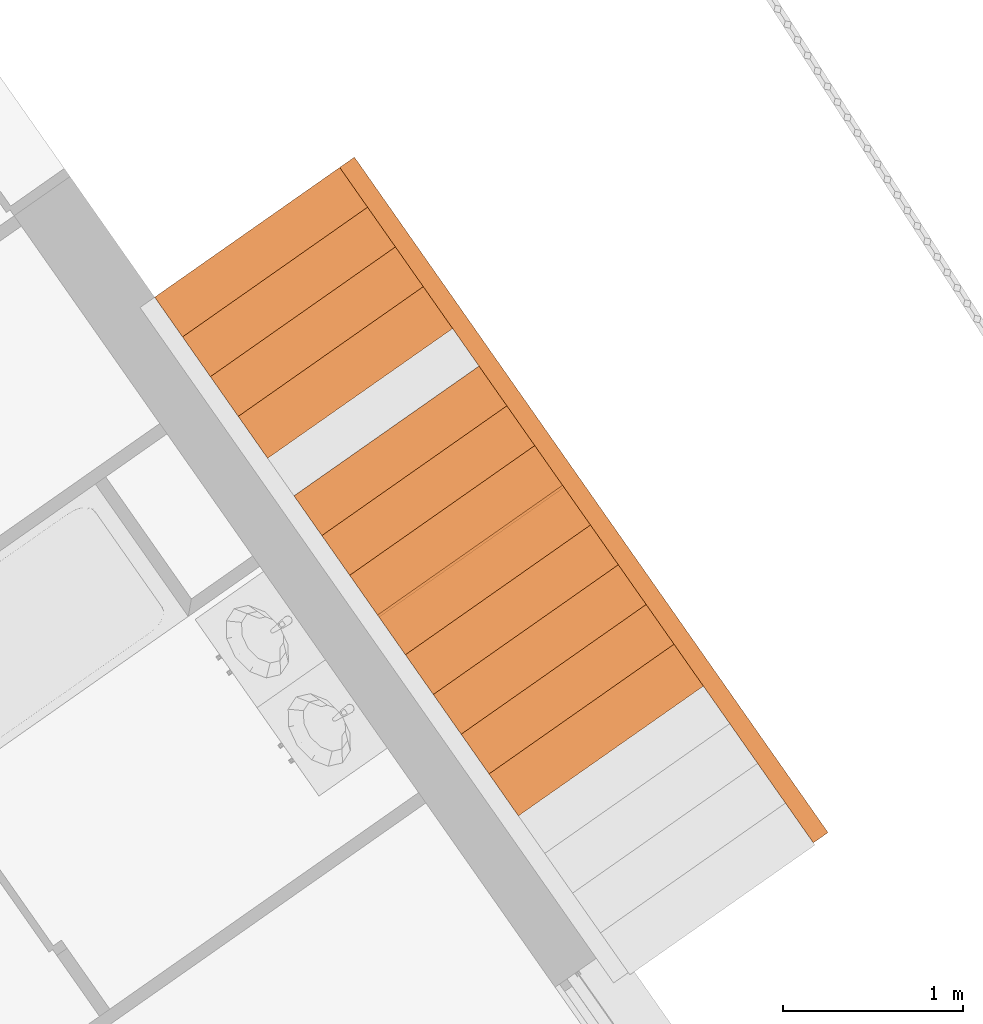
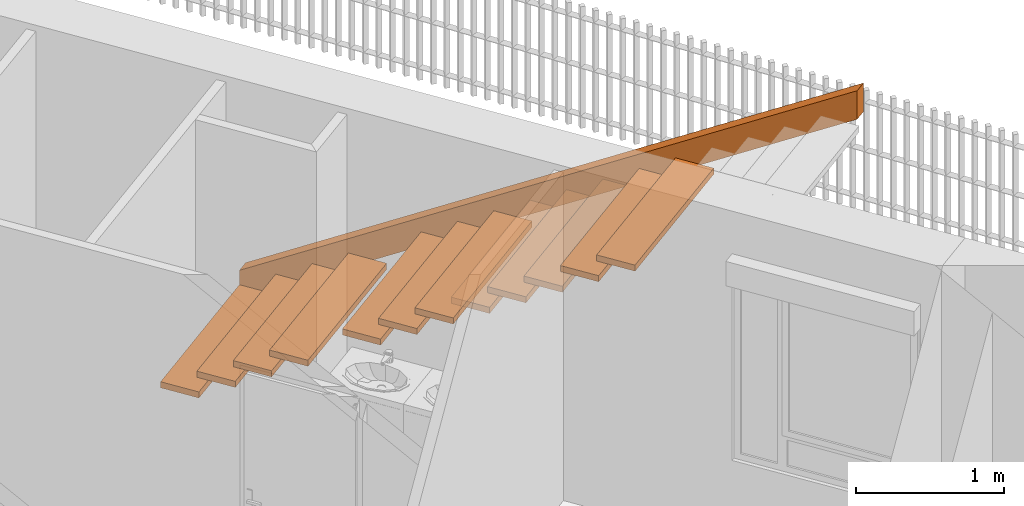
# One storey, part 186 of 195: 23 proxies, 2 elements without a shape of their own.
"""IFC2X3 building model written with IfcOpenShell, lengths in metres."""

from ifc_helpers import new_model, entity, si_unit, converted_unit, derived_unit, money_unit, direction, frame, origin_with_axes, place, context, subcontext, project, spatial, faceted_brep, material, type_object, element, aggregate, save


model = new_model("IFC2X3")

# Units and contexts
model_context = context("Model", 3, precision=1e-05, world=origin_with_axes(), true_north=direction((0.0, 1.0)))
body_context = subcontext(model_context, "Body", "Model", "MODEL_VIEW")
ifc_project = project(units=[si_unit("LENGTHUNIT", "METRE"), si_unit("AREAUNIT", "SQUARE_METRE"), si_unit("VOLUMEUNIT", "CUBIC_METRE"), converted_unit("PLANEANGLEUNIT", "DEGREE", entity("IfcPlaneAngleMeasure", 0.0174532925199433), si_unit("PLANEANGLEUNIT", "RADIAN"), dimensions=[0, 0, 0, 0, 0, 0, 0]), money_unit("CHF"), converted_unit("TIMEUNIT", "Year", entity("IfcTimeMeasure", 31557600.0), si_unit("TIMEUNIT", "SECOND"), dimensions=[0, 0, 1, 0, 0, 0, 0]), si_unit("MASSUNIT", "GRAM", prefix="KILO"), si_unit("THERMODYNAMICTEMPERATUREUNIT", "DEGREE_CELSIUS"), si_unit("LUMINOUSINTENSITYUNIT", "LUMEN"), si_unit("ENERGYUNIT", "JOULE", prefix="MEGA"), derived_unit("THERMALCONDUCTANCEUNIT", [(si_unit("POWERUNIT", "WATT"), 1), (si_unit("LENGTHUNIT", "METRE"), -1), (si_unit("THERMODYNAMICTEMPERATUREUNIT", "KELVIN"), -1)]), derived_unit("SPECIFICHEATCAPACITYUNIT", [(si_unit("ENERGYUNIT", "JOULE"), 1), (si_unit("MASSUNIT", "GRAM", prefix="KILO"), -1), (si_unit("THERMODYNAMICTEMPERATUREUNIT", "KELVIN"), -1)]), derived_unit("MASSDENSITYUNIT", [(si_unit("MASSUNIT", "GRAM", prefix="KILO"), 1), (si_unit("VOLUMEUNIT", "CUBIC_METRE"), -1)])], contexts=[model_context])

# Site, building, storey
site_placement = place(None, origin_with_axes())
site = spatial("IfcSite", under=ifc_project, at=site_placement, Name="Site", CompositionType="ELEMENT")
building_placement = place(site_placement, origin_with_axes())
building = spatial("IfcBuilding", under=site, at=building_placement, Name="Bâtiment", CompositionType="ELEMENT")
storey_placement = place(building_placement, origin_with_axes())
storey = spatial("IfcBuildingStorey", under=building, at=storey_placement, Name="rdc", CompositionType="ELEMENT", Elevation=0.0)

# Stair, proxies
stair_1_placement = place(storey_placement, frame((9553.64061674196, -1056.719987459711, 57.33248236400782), z_axis=(0.0, 0.0, 1.0), x_axis=(-0.7691003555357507, 0.6391280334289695, 0.0)))
stair_1 = element("IfcStair", 1, at=stair_1_placement, inside=storey, Name="ESC-028", ShapeType="NOTDEFINED")
ifc_material_1 = material(Name="Isolant styromousse 288701002")
building_element_proxy_type = type_object("IfcBuildingElementProxyType", Name="IfcBuildingElementProxy", PredefinedType="NOTDEFINED")
proxy_1_placement = place(stair_1_placement, origin_with_axes())
proxy_1 = element("IfcBuildingElementProxy", 2, at=proxy_1_placement, type_object=building_element_proxy_type, material=ifc_material_1, Name="SS - 039", context=body_context, shape_type="Brep", body=[
    faceted_brep([(-4.785391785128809, -0.1038036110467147, 2.882482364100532), (-0.3566463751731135, -1.309753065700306, 0.04914903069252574), (-0.3566463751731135, -1.309753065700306, 0.2841843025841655), (-4.785391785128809, -0.1038036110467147, 3.117517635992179), (-4.75911837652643, -0.007316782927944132, 2.882482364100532), (-0.3303729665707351, -1.213266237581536, 0.04914903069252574), (-0.3303729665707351, -1.213266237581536, 0.2841843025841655), (-4.75911837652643, -0.007316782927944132, 3.117517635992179)], [[[0, 1, 2, 3]], [[4, 5, 1, 0]], [[2, 1, 5, 6]], [[3, 2, 6, 7]], [[7, 4, 0, 3]], [[7, 6, 5, 4]]]),
])
ifc_material_2 = material(Name="Lame d'air 275581351")
proxy_2_placement = place(stair_1_placement, frame((-0.1274260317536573, -0.4679611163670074, 0.1666666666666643), z_axis=(0.0, 0.0, 1.0), x_axis=(-0.2627340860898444, -0.9648682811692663, 0.0)))
proxy_2 = element("IfcBuildingElementProxy", 3, at=proxy_2_placement, type_object=building_element_proxy_type, material=ifc_material_2, Name="MARCHE-537", context=body_context, shape_type="Brep", body=[
    faceted_brep([(-0.4850000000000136, 0.0, -0.04999999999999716), (-0.4850000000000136, 0.0, 0.0), (0.7724423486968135, -2.853539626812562e-10, 0.0), (0.7724423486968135, -2.853539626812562e-10, -0.04999999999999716), (-0.4849999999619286, -0.2849999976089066, -0.04999999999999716), (-0.4849999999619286, -0.2849999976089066, 0.0), (0.7724423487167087, -0.2849999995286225, 0.0), (0.7724423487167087, -0.2849999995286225, -0.04999999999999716)], [[[0, 1, 2, 3]], [[4, 5, 1, 0]], [[1, 5, 6, 2]], [[3, 2, 6, 7]], [[0, 3, 7, 4]], [[7, 6, 5, 4]]]),
])
proxy_3_placement = place(stair_1_placement, frame((-0.3879404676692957, -0.3970229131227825, 0.3333333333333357), z_axis=(0.0, 0.0, 1.0), x_axis=(-0.2627340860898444, -0.9648682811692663, 0.0)))
proxy_3 = element("IfcBuildingElementProxy", 4, at=proxy_3_placement, type_object=building_element_proxy_type, material=ifc_material_2, Name="MARCHE-538", context=body_context, shape_type="Brep", body=[
    faceted_brep([(-0.4850000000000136, 0.0, -0.04999999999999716), (-0.4850000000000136, 0.0, 0.0), (0.7724423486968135, -2.853539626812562e-10, 0.0), (0.7724423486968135, -2.853539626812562e-10, -0.04999999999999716), (-0.4849999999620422, -0.2849999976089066, -0.04999999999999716), (-0.4849999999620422, -0.2849999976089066, 0.0), (0.7724423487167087, -0.2849999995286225, 0.0), (0.7724423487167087, -0.2849999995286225, -0.04999999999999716)], [[[0, 1, 2, 3]], [[4, 5, 1, 0]], [[1, 5, 6, 2]], [[3, 2, 6, 7]], [[0, 3, 7, 4]], [[7, 6, 5, 4]]]),
])
proxy_4_placement = place(stair_1_placement, frame((-0.6484549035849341, -0.3260847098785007, 0.5), z_axis=(0.0, 0.0, 1.0), x_axis=(-0.2627340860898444, -0.9648682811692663, 0.0)))
proxy_4 = element("IfcBuildingElementProxy", 5, at=proxy_4_placement, type_object=building_element_proxy_type, material=ifc_material_2, Name="MARCHE-539", context=body_context, shape_type="Brep", body=[
    faceted_brep([(-0.4850000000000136, 0.0, -0.04999999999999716), (-0.4850000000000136, 0.0, 0.0), (0.7724423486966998, -2.853539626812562e-10, 0.0), (0.7724423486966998, -2.853539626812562e-10, -0.04999999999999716), (-0.4849999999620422, -0.2849999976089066, -0.04999999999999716), (-0.4849999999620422, -0.2849999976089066, 0.0), (0.7724423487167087, -0.2849999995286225, 0.0), (0.7724423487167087, -0.2849999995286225, -0.04999999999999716)], [[[0, 1, 2, 3]], [[4, 5, 1, 0]], [[1, 5, 6, 2]], [[3, 2, 6, 7]], [[0, 3, 7, 4]], [[7, 6, 5, 4]]]),
])
proxy_5_placement = place(stair_1_placement, frame((-0.9089693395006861, -0.2551465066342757, 0.6666666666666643), z_axis=(0.0, 0.0, 1.0), x_axis=(-0.2627340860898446, -0.9648682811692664, 0.0)))
proxy_5 = element("IfcBuildingElementProxy", 6, at=proxy_5_placement, type_object=building_element_proxy_type, material=ifc_material_2, Name="MARCHE-540", context=body_context, shape_type="Brep", body=[
    faceted_brep([(-0.4849999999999, 0.0, -0.04999999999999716), (-0.4849999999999, 0.0, 0.0), (0.7724423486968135, -2.853539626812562e-10, 0.0), (0.7724423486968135, -2.853539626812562e-10, -0.04999999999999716), (-0.4849999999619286, -0.2849999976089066, -0.04999999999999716), (-0.4849999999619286, -0.2849999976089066, 0.0), (0.7724423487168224, -0.2849999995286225, 0.0), (0.7724423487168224, -0.2849999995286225, -0.04999999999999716)], [[[0, 1, 2, 3]], [[4, 5, 1, 0]], [[1, 5, 6, 2]], [[3, 2, 6, 7]], [[0, 3, 7, 4]], [[7, 6, 5, 4]]]),
])
proxy_6_placement = place(stair_1_placement, frame((-1.42999821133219, -0.113270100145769, 1.0), z_axis=(0.0, 0.0, 1.0), x_axis=(-0.2627340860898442, -0.9648682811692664, 0.0)))
proxy_6 = element("IfcBuildingElementProxy", 7, at=proxy_6_placement, type_object=building_element_proxy_type, material=ifc_material_2, Name="MARCHE-542", context=body_context, shape_type="Brep", body=[
    faceted_brep([(-0.4850000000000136, 0.0, -0.04999999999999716), (-0.4850000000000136, 0.0, 0.0), (0.7724423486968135, -2.853539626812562e-10, 0.0), (0.7724423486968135, -2.853539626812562e-10, -0.04999999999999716), (-0.4849999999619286, -0.2849999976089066, -0.04999999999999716), (-0.4849999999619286, -0.2849999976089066, 0.0), (0.7724423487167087, -0.2849999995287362, 0.0), (0.7724423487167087, -0.2849999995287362, -0.04999999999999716)], [[[0, 1, 2, 3]], [[4, 5, 1, 0]], [[1, 5, 6, 2]], [[3, 2, 6, 7]], [[0, 3, 7, 4]], [[7, 6, 5, 4]]]),
])
proxy_7_placement = place(stair_1_placement, frame((-1.690512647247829, -0.04233189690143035, 1.166666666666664), z_axis=(0.0, 0.0, 1.0), x_axis=(-0.2627340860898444, -0.9648682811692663, 0.0)))
proxy_7 = element("IfcBuildingElementProxy", 8, at=proxy_7_placement, type_object=building_element_proxy_type, material=ifc_material_2, Name="MARCHE-543", context=body_context, shape_type="Brep", body=[
    faceted_brep([(-0.4850000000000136, 0.0, -0.04999999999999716), (-0.4850000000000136, 0.0, 0.0), (0.7724423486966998, -2.852402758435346e-10, 0.0), (0.7724423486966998, -2.852402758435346e-10, -0.04999999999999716), (-0.4849999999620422, -0.2849999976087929, -0.04999999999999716), (-0.4849999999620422, -0.2849999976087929, 0.0), (0.7724423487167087, -0.2849999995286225, 0.0), (0.7724423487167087, -0.2849999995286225, -0.04999999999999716)], [[[0, 1, 2, 3]], [[4, 5, 1, 0]], [[1, 5, 6, 2]], [[3, 2, 6, 7]], [[0, 3, 7, 4]], [[7, 6, 5, 4]]]),
])
proxy_8_placement = place(stair_1_placement, frame((-1.951027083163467, 0.02860630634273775, 1.333333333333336), z_axis=(0.0, 0.0, 1.0), x_axis=(-0.2627340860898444, -0.9648682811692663, 0.0)))
proxy_8 = element("IfcBuildingElementProxy", 9, at=proxy_8_placement, type_object=building_element_proxy_type, material=ifc_material_2, Name="MARCHE-544", context=body_context, shape_type="Brep", body=[
    faceted_brep([(-0.4850000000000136, 0.0, -0.04999999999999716), (-0.4850000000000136, 0.0, 0.0), (0.7724423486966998, -2.852402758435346e-10, 0.0), (0.7724423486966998, -2.852402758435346e-10, -0.04999999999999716), (-0.4849999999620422, -0.2849999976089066, -0.04999999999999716), (-0.4849999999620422, -0.2849999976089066, 0.0), (0.7724423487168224, -0.2849999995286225, 0.0), (0.7724423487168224, -0.2849999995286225, -0.04999999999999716)], [[[0, 1, 2, 3]], [[4, 5, 1, 0]], [[1, 5, 6, 2]], [[3, 2, 6, 7]], [[0, 3, 7, 4]], [[7, 6, 5, 4]]]),
])
proxy_9_placement = place(stair_1_placement, frame((-2.993084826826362, 0.3123591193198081, 2.0), z_axis=(0.0, 0.0, 1.0), x_axis=(-0.2627340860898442, -0.9648682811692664, 0.0)))
proxy_9 = element("IfcBuildingElementProxy", 10, at=proxy_9_placement, type_object=building_element_proxy_type, material=ifc_material_2, Name="MARCHE-548", context=body_context, shape_type="Brep", body=[
    faceted_brep([(-0.4850000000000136, 0.0, -0.04999999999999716), (-0.4850000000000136, 0.0, 0.0), (0.7724423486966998, -2.853539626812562e-10, 0.0), (0.7724423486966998, -2.853539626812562e-10, -0.04999999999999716), (-0.4849999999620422, -0.2849999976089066, -0.04999999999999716), (-0.4849999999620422, -0.2849999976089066, 0.0), (0.7724423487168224, -0.2849999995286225, 0.0), (0.7724423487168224, -0.2849999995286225, -0.04999999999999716)], [[[0, 1, 2, 3]], [[4, 5, 1, 0]], [[1, 5, 6, 2]], [[3, 2, 6, 7]], [[0, 3, 7, 4]], [[7, 6, 5, 4]]]),
])
proxy_10_placement = place(stair_1_placement, frame((-3.253599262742, 0.3832973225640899, 2.166666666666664), z_axis=(0.0, 0.0, 1.0), x_axis=(-0.2627340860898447, -0.9648682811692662, 0.0)))
proxy_10 = element("IfcBuildingElementProxy", 11, at=proxy_10_placement, type_object=building_element_proxy_type, material=ifc_material_2, Name="MARCHE-549", context=body_context, shape_type="Brep", body=[
    faceted_brep([(-0.4850000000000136, 0.0, -0.04999999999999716), (-0.4850000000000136, 0.0, 0.0), (0.7724423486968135, -2.853539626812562e-10, 0.0), (0.7724423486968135, -2.853539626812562e-10, -0.04999999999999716), (-0.4849999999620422, -0.2849999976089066, -0.04999999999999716), (-0.4849999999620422, -0.2849999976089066, 0.0), (0.7724423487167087, -0.2849999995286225, 0.0), (0.7724423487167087, -0.2849999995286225, -0.04999999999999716)], [[[0, 1, 2, 3]], [[4, 5, 1, 0]], [[1, 5, 6, 2]], [[3, 2, 6, 7]], [[0, 3, 7, 4]], [[7, 6, 5, 4]]]),
])
aggregate(stair_1, [proxy_1, proxy_2, proxy_3, proxy_4, proxy_5, proxy_6, proxy_7, proxy_8, proxy_9, proxy_10])

stair_2_placement = place(storey_placement, frame((9553.64061674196, -1056.719987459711, 57.33248236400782), z_axis=(0.0, 0.0, 1.0), x_axis=(-0.7691003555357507, 0.6391280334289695, 0.0)))
stair_2 = element("IfcStair", 12, at=stair_2_placement, inside=storey, Name="ESC-028", ShapeType="NOTDEFINED")
proxy_11_placement = place(stair_2_placement, frame((-0.1274260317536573, -0.4679611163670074, 0.1666666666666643), z_axis=(0.0, 0.0, 1.0), x_axis=(-0.2627340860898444, -0.9648682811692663, 0.0)))
proxy_11 = element("IfcBuildingElementProxy", 13, at=proxy_11_placement, type_object=building_element_proxy_type, material=ifc_material_2, Name="MARCHE-537", context=body_context, shape_type="Brep", body=[
    faceted_brep([(-0.4850000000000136, 0.0, -0.04999999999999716), (-0.4850000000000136, 0.0, 0.0), (0.7724423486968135, -2.853539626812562e-10, 0.0), (0.7724423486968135, -2.853539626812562e-10, -0.04999999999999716), (-0.4849999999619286, -0.2849999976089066, -0.04999999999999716), (-0.4849999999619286, -0.2849999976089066, 0.0), (0.7724423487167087, -0.2849999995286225, 0.0), (0.7724423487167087, -0.2849999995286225, -0.04999999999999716)], [[[0, 1, 2, 3]], [[4, 5, 1, 0]], [[1, 5, 6, 2]], [[3, 2, 6, 7]], [[0, 3, 7, 4]], [[7, 6, 5, 4]]]),
])
proxy_12_placement = place(stair_2_placement, origin_with_axes())
proxy_12 = element("IfcBuildingElementProxy", 14, at=proxy_12_placement, type_object=building_element_proxy_type, material=ifc_material_1, Name="SS - 039", context=body_context, shape_type="Brep", body=[
    faceted_brep([(-4.785391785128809, -0.1038036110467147, 2.882482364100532), (-0.3566463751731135, -1.309753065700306, 0.04914903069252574), (-0.3566463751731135, -1.309753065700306, 0.2841843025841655), (-4.785391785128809, -0.1038036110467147, 3.117517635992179), (-4.75911837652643, -0.007316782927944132, 2.882482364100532), (-0.3303729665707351, -1.213266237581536, 0.04914903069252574), (-0.3303729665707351, -1.213266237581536, 0.2841843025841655), (-4.75911837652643, -0.007316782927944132, 3.117517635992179)], [[[0, 1, 2, 3]], [[4, 5, 1, 0]], [[2, 1, 5, 6]], [[3, 2, 6, 7]], [[7, 4, 0, 3]], [[7, 6, 5, 4]]]),
])
proxy_13_placement = place(stair_2_placement, frame((-0.3879404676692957, -0.3970229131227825, 0.3333333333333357), z_axis=(0.0, 0.0, 1.0), x_axis=(-0.2627340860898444, -0.9648682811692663, 0.0)))
proxy_13 = element("IfcBuildingElementProxy", 15, at=proxy_13_placement, type_object=building_element_proxy_type, material=ifc_material_2, Name="MARCHE-538", context=body_context, shape_type="Brep", body=[
    faceted_brep([(-0.4850000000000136, 0.0, -0.04999999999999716), (-0.4850000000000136, 0.0, 0.0), (0.7724423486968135, -2.853539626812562e-10, 0.0), (0.7724423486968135, -2.853539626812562e-10, -0.04999999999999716), (-0.4849999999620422, -0.2849999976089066, -0.04999999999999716), (-0.4849999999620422, -0.2849999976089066, 0.0), (0.7724423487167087, -0.2849999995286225, 0.0), (0.7724423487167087, -0.2849999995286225, -0.04999999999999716)], [[[0, 1, 2, 3]], [[4, 5, 1, 0]], [[1, 5, 6, 2]], [[3, 2, 6, 7]], [[0, 3, 7, 4]], [[7, 6, 5, 4]]]),
])
proxy_14_placement = place(stair_2_placement, frame((-0.6484549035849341, -0.3260847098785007, 0.5), z_axis=(0.0, 0.0, 1.0), x_axis=(-0.2627340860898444, -0.9648682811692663, 0.0)))
proxy_14 = element("IfcBuildingElementProxy", 16, at=proxy_14_placement, type_object=building_element_proxy_type, material=ifc_material_2, Name="MARCHE-539", context=body_context, shape_type="Brep", body=[
    faceted_brep([(-0.4850000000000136, 0.0, -0.04999999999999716), (-0.4850000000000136, 0.0, 0.0), (0.7724423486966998, -2.853539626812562e-10, 0.0), (0.7724423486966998, -2.853539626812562e-10, -0.04999999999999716), (-0.4849999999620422, -0.2849999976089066, -0.04999999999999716), (-0.4849999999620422, -0.2849999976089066, 0.0), (0.7724423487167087, -0.2849999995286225, 0.0), (0.7724423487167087, -0.2849999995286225, -0.04999999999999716)], [[[0, 1, 2, 3]], [[4, 5, 1, 0]], [[1, 5, 6, 2]], [[3, 2, 6, 7]], [[0, 3, 7, 4]], [[7, 6, 5, 4]]]),
])
proxy_15_placement = place(stair_2_placement, frame((-0.9089693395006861, -0.2551465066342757, 0.6666666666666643), z_axis=(0.0, 0.0, 1.0), x_axis=(-0.2627340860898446, -0.9648682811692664, 0.0)))
proxy_15 = element("IfcBuildingElementProxy", 17, at=proxy_15_placement, type_object=building_element_proxy_type, material=ifc_material_2, Name="MARCHE-540", context=body_context, shape_type="Brep", body=[
    faceted_brep([(-0.4849999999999, 0.0, -0.04999999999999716), (-0.4849999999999, 0.0, 0.0), (0.7724423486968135, -2.853539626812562e-10, 0.0), (0.7724423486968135, -2.853539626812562e-10, -0.04999999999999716), (-0.4849999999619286, -0.2849999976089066, -0.04999999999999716), (-0.4849999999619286, -0.2849999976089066, 0.0), (0.7724423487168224, -0.2849999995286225, 0.0), (0.7724423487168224, -0.2849999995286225, -0.04999999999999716)], [[[0, 1, 2, 3]], [[4, 5, 1, 0]], [[1, 5, 6, 2]], [[3, 2, 6, 7]], [[0, 3, 7, 4]], [[7, 6, 5, 4]]]),
])
proxy_16_placement = place(stair_2_placement, frame((-1.42999821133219, -0.113270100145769, 1.0), z_axis=(0.0, 0.0, 1.0), x_axis=(-0.2627340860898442, -0.9648682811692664, 0.0)))
proxy_16 = element("IfcBuildingElementProxy", 18, at=proxy_16_placement, type_object=building_element_proxy_type, material=ifc_material_2, Name="MARCHE-542", context=body_context, shape_type="Brep", body=[
    faceted_brep([(-0.4850000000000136, 0.0, -0.04999999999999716), (-0.4850000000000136, 0.0, 0.0), (0.7724423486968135, -2.853539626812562e-10, 0.0), (0.7724423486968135, -2.853539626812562e-10, -0.04999999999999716), (-0.4849999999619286, -0.2849999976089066, -0.04999999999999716), (-0.4849999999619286, -0.2849999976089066, 0.0), (0.7724423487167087, -0.2849999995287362, 0.0), (0.7724423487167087, -0.2849999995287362, -0.04999999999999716)], [[[0, 1, 2, 3]], [[4, 5, 1, 0]], [[1, 5, 6, 2]], [[3, 2, 6, 7]], [[0, 3, 7, 4]], [[7, 6, 5, 4]]]),
])
proxy_17_placement = place(stair_2_placement, frame((-1.690512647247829, -0.04233189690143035, 1.166666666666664), z_axis=(0.0, 0.0, 1.0), x_axis=(-0.2627340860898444, -0.9648682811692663, 0.0)))
proxy_17 = element("IfcBuildingElementProxy", 19, at=proxy_17_placement, type_object=building_element_proxy_type, material=ifc_material_2, Name="MARCHE-543", context=body_context, shape_type="Brep", body=[
    faceted_brep([(-0.4850000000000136, 0.0, -0.04999999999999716), (-0.4850000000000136, 0.0, 0.0), (0.7724423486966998, -2.852402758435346e-10, 0.0), (0.7724423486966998, -2.852402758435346e-10, -0.04999999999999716), (-0.4849999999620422, -0.2849999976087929, -0.04999999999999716), (-0.4849999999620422, -0.2849999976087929, 0.0), (0.7724423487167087, -0.2849999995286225, 0.0), (0.7724423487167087, -0.2849999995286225, -0.04999999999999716)], [[[0, 1, 2, 3]], [[4, 5, 1, 0]], [[1, 5, 6, 2]], [[3, 2, 6, 7]], [[0, 3, 7, 4]], [[7, 6, 5, 4]]]),
])
proxy_18_placement = place(stair_2_placement, frame((-1.951027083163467, 0.02860630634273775, 1.333333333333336), z_axis=(0.0, 0.0, 1.0), x_axis=(-0.2627340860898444, -0.9648682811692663, 0.0)))
proxy_18 = element("IfcBuildingElementProxy", 20, at=proxy_18_placement, type_object=building_element_proxy_type, material=ifc_material_2, Name="MARCHE-544", context=body_context, shape_type="Brep", body=[
    faceted_brep([(-0.4850000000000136, 0.0, -0.04999999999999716), (-0.4850000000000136, 0.0, 0.0), (0.7724423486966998, -2.852402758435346e-10, 0.0), (0.7724423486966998, -2.852402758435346e-10, -0.04999999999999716), (-0.4849999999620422, -0.2849999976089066, -0.04999999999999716), (-0.4849999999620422, -0.2849999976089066, 0.0), (0.7724423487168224, -0.2849999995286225, 0.0), (0.7724423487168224, -0.2849999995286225, -0.04999999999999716)], [[[0, 1, 2, 3]], [[4, 5, 1, 0]], [[1, 5, 6, 2]], [[3, 2, 6, 7]], [[0, 3, 7, 4]], [[7, 6, 5, 4]]]),
])
proxy_19_placement = place(stair_2_placement, frame((-2.211541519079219, 0.09954450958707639, 1.5), z_axis=(0.0, 0.0, 1.0), x_axis=(-0.2627340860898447, -0.9648682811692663, 0.0)))
proxy_19 = element("IfcBuildingElementProxy", 21, at=proxy_19_placement, type_object=building_element_proxy_type, material=ifc_material_2, Name="MARCHE-545", context=body_context, shape_type="Brep", body=[
    faceted_brep([(-0.4850000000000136, 0.0, -0.04999999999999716), (-0.4850000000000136, 0.0, 0.0), (0.7724423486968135, -2.853539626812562e-10, 0.0), (0.7724423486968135, -2.853539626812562e-10, -0.04999999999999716), (-0.4849999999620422, -0.2849999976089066, -0.04999999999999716), (-0.4849999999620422, -0.2849999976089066, 0.0), (0.7724423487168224, -0.2849999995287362, 0.0), (0.7724423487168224, -0.2849999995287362, -0.04999999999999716)], [[[0, 1, 2, 3]], [[4, 5, 1, 0]], [[1, 5, 6, 2]], [[3, 2, 6, 7]], [[0, 3, 7, 4]], [[7, 6, 5, 4]]]),
])
proxy_20_placement = place(stair_2_placement, frame((-2.472055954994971, 0.1704827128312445, 1.666666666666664), z_axis=(0.0, 0.0, 1.0), x_axis=(-0.2627340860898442, -0.9648682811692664, 0.0)))
proxy_20 = element("IfcBuildingElementProxy", 22, at=proxy_20_placement, type_object=building_element_proxy_type, material=ifc_material_2, Name="MARCHE-546", context=body_context, shape_type="Brep", body=[
    faceted_brep([(-0.4850000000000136, 0.0, -0.04999999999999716), (-0.4850000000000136, 0.0, 0.0), (0.7724423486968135, -2.853539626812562e-10, 0.0), (0.7724423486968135, -2.853539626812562e-10, -0.04999999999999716), (-0.4849999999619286, -0.2849999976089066, -0.04999999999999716), (-0.4849999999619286, -0.2849999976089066, 0.0), (0.7724423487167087, -0.2849999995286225, 0.0), (0.7724423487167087, -0.2849999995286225, -0.04999999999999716)], [[[0, 1, 2, 3]], [[4, 5, 1, 0]], [[1, 5, 6, 2]], [[3, 2, 6, 7]], [[0, 3, 7, 4]], [[7, 6, 5, 4]]]),
])
proxy_21_placement = place(stair_2_placement, frame((-2.73257039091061, 0.2414209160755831, 1.833333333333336), z_axis=(0.0, 0.0, 1.0), x_axis=(-0.2627340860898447, -0.9648682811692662, 0.0)))
proxy_21 = element("IfcBuildingElementProxy", 23, at=proxy_21_placement, type_object=building_element_proxy_type, material=ifc_material_2, Name="MARCHE-547", context=body_context, shape_type="Brep", body=[
    faceted_brep([(-0.4850000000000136, 0.0, -0.04999999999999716), (-0.4850000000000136, 0.0, 0.0), (0.7724423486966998, -2.853539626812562e-10, 0.0), (0.7724423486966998, -2.853539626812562e-10, -0.04999999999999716), (-0.4849999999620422, -0.2849999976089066, -0.04999999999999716), (-0.4849999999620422, -0.2849999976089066, 0.0), (0.7724423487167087, -0.2849999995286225, 0.0), (0.7724423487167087, -0.2849999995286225, -0.04999999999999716)], [[[0, 1, 2, 3]], [[4, 5, 1, 0]], [[1, 5, 6, 2]], [[3, 2, 6, 7]], [[0, 3, 7, 4]], [[7, 6, 5, 4]]]),
])
proxy_22_placement = place(stair_2_placement, frame((-2.993084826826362, 0.3123591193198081, 2.0), z_axis=(0.0, 0.0, 1.0), x_axis=(-0.2627340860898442, -0.9648682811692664, 0.0)))
proxy_22 = element("IfcBuildingElementProxy", 24, at=proxy_22_placement, type_object=building_element_proxy_type, material=ifc_material_2, Name="MARCHE-548", context=body_context, shape_type="Brep", body=[
    faceted_brep([(-0.4850000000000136, 0.0, -0.04999999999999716), (-0.4850000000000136, 0.0, 0.0), (0.7724423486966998, -2.853539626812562e-10, 0.0), (0.7724423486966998, -2.853539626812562e-10, -0.04999999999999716), (-0.4849999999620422, -0.2849999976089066, -0.04999999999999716), (-0.4849999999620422, -0.2849999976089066, 0.0), (0.7724423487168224, -0.2849999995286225, 0.0), (0.7724423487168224, -0.2849999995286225, -0.04999999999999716)], [[[0, 1, 2, 3]], [[4, 5, 1, 0]], [[1, 5, 6, 2]], [[3, 2, 6, 7]], [[0, 3, 7, 4]], [[7, 6, 5, 4]]]),
])
proxy_23_placement = place(stair_2_placement, frame((-3.253599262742, 0.3832973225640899, 2.166666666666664), z_axis=(0.0, 0.0, 1.0), x_axis=(-0.2627340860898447, -0.9648682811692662, 0.0)))
proxy_23 = element("IfcBuildingElementProxy", 25, at=proxy_23_placement, type_object=building_element_proxy_type, material=ifc_material_2, Name="MARCHE-549", context=body_context, shape_type="Brep", body=[
    faceted_brep([(-0.4850000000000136, 0.0, -0.04999999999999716), (-0.4850000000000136, 0.0, 0.0), (0.7724423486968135, -2.853539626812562e-10, 0.0), (0.7724423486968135, -2.853539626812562e-10, -0.04999999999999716), (-0.4849999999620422, -0.2849999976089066, -0.04999999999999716), (-0.4849999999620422, -0.2849999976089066, 0.0), (0.7724423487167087, -0.2849999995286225, 0.0), (0.7724423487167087, -0.2849999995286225, -0.04999999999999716)], [[[0, 1, 2, 3]], [[4, 5, 1, 0]], [[1, 5, 6, 2]], [[3, 2, 6, 7]], [[0, 3, 7, 4]], [[7, 6, 5, 4]]]),
])
aggregate(stair_2, [proxy_11, proxy_12, proxy_13, proxy_14, proxy_15, proxy_16, proxy_17, proxy_18, proxy_19, proxy_20, proxy_21, proxy_22, proxy_23])

save(model, "model.ifc")
